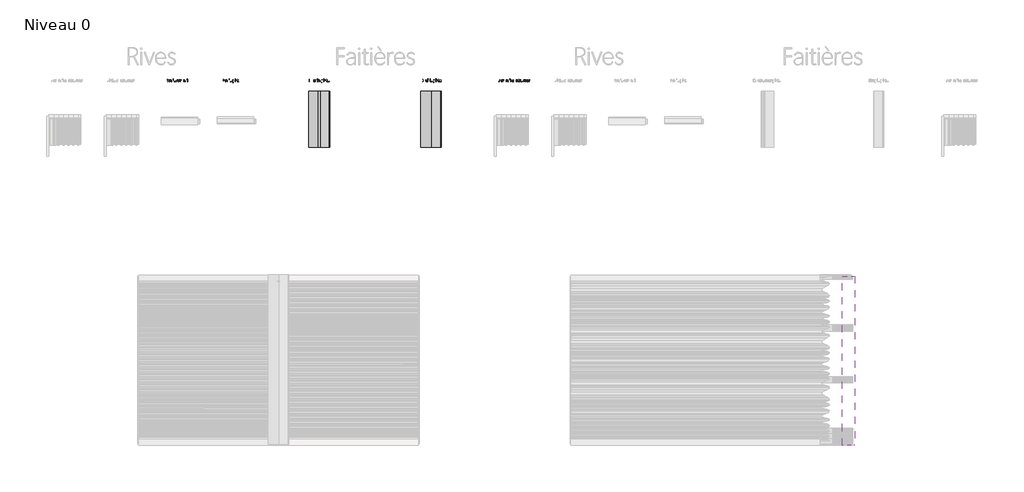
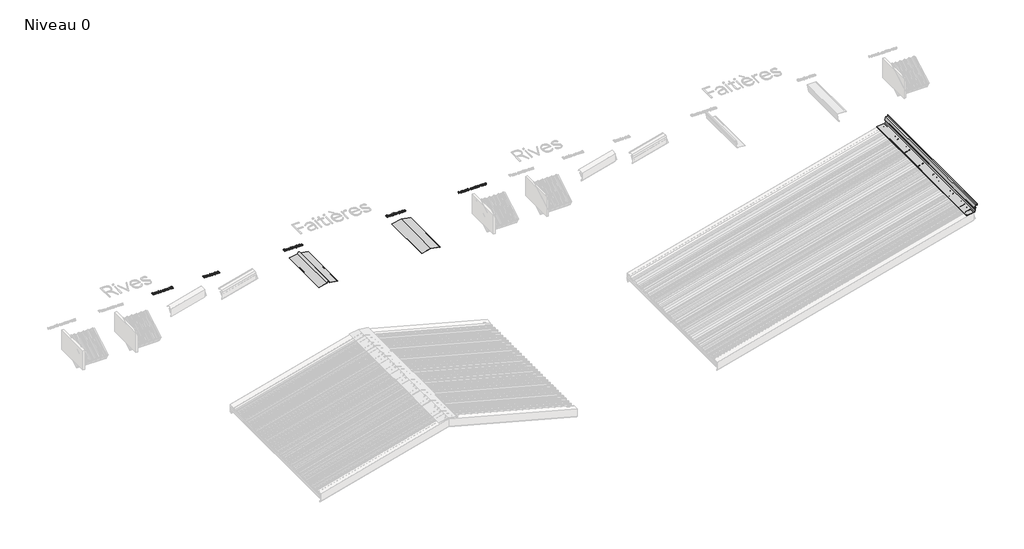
# One storey, part 15 of 26: 8 proxies.
"""IFC4 building model written with IfcOpenShell, lengths in millimetres."""

from ifc_helpers import new_model, si_unit, origin, origin_with_axes, place, context, project, spatial, polyline, outline, extrude, transform, mapped, element, save
from components import generic_models_b31ef93d, generic_models_a14e3ee3, generic_models_837f975a

model = new_model("IFC4")

# Units and contexts
model_context = context("Model", 3, world=origin())
ifc_project = project(units=[si_unit("LENGTHUNIT", "METRE", prefix="MILLI")], contexts=[model_context])

# Site, building, storey
site = spatial("IfcSite", under=ifc_project)
building = spatial("IfcBuilding", under=site)
storey = spatial("IfcBuildingStorey", under=building, Name="Niveau 0", Elevation=0.0)

# Proxies
placement = place(None, origin())
generic_models_shape = generic_models_b31ef93d(model_context)
element("IfcBuildingElementProxy", 1, Name="Faitiaire a bondin plat : Faitiaire a bondin plat", ObjectType="Faitiaire a bondin plat : Faitiaire a bondin plat", at=placement, inside=storey, context=model_context, shape_type="MappedRepresentation", body=[
    mapped(generic_models_shape, transform((4043.1822429, -8404.0846084, 0.0), x_axis=(0.0, -1.0, 0.0), y_axis=(1.0, 0.0, 0.0), z_axis=(0.0, 0.0, 1.0))),
])
generic_models_2_shape = generic_models_a14e3ee3(model_context)
element("IfcBuildingElementProxy", 2, Name="Faitaire a double plat : Faitaire a double plat", ObjectType="Faitaire a double plat : Faitaire a double plat", at=placement, inside=storey, context=model_context, shape_type="MappedRepresentation", body=[
    mapped(generic_models_2_shape, transform((6043.1822429, -8404.4337097, 0.0), x_axis=(0.0, -1.0, 0.0), y_axis=(1.0, 0.0, 0.0), z_axis=(0.0, 0.0, 1.0))),
])
generic_models_3_shape = generic_models_837f975a(model_context)
element("IfcBuildingElementProxy", 3, Name="Faitiere contre mur plate : Faitiere contre mur plate", ObjectType="Faitiere contre mur plate : Faitiere contre mur plate", at=placement, inside=storey, context=model_context, shape_type="MappedRepresentation", body=[
    mapped(generic_models_3_shape, transform((13557.8797747, -14732.4337097, 1350.0), x_axis=(0.0, 1.0, 0.0), y_axis=(-1.0, 0.0, 0.0), z_axis=(0.0, 0.0, 1.0))),
])
element("IfcBuildingElementProxy", 4, Name="0.5mm", ObjectType="0.5mm", at=placement, inside=storey, context=model_context, shape_type="SweptSolid", body=[
    extrude(outline(polyline([(5864.535279, -8239.2596825), (5864.535279, -8189.2569805), (5875.5147476, -8189.2569805), (5886.3361447, -8190.891627), (5894.5205351, -8195.7955665), (5899.6699506, -8203.5931464), (5901.3864224, -8213.9087143), (5899.6085816, -8224.3116864), (5894.2750592, -8232.3714793), (5885.9325971, -8237.5376317), (5875.1279371, -8239.2596825), (5864.535279, -8239.2596825)]), holes=[polyline([(5866.841265, -8191.3844385), (5866.841265, -8237.1322245), (5874.8898998, -8237.1322245), (5884.9302371, -8235.5849823), (5892.5864824, -8230.9432557), (5897.4346319, -8223.6087326), (5899.0506818, -8213.9831009), (5897.4774042, -8204.3983818), (5892.7575717, -8197.2758607), (5885.2296433, -8192.857294), (5875.2320784, -8191.3844385), (5866.841265, -8191.3844385)])]), origin_with_axes(), (0.0, 0.0, 1.0), 10.0),
    extrude(outline(polyline([(5924.7884605, -8240.0928129), (5912.5667349, -8234.9303798), (5907.9175697, -8221.4812746), (5912.7229469, -8207.9131508), (5924.9223565, -8202.676331), (5937.0622568, -8207.9280281), (5941.6593514, -8221.406888), (5937.0027475, -8234.8783092), (5924.7884605, -8240.0928129)]), holes=[polyline([(5924.8628472, -8238.0397415), (5935.4555053, -8233.4054536), (5939.427752, -8221.3771333), (5935.4703826, -8209.3636903), (5924.9223565, -8204.7442797), (5914.2404344, -8209.4455156), (5910.149169, -8221.5110293), (5914.1734865, -8233.4575243), (5924.8628472, -8238.0397415)])]), origin_with_axes(), (0.0, 0.0, 1.0), 10.0),
    extrude(outline(polyline([(5975.2672371, -8239.2299278), (5973.139779, -8239.2299278), (5973.139779, -8233.1153457), (5968.1856286, -8238.3000948), (5961.282548, -8240.0928129), (5952.1478681, -8236.366042), (5948.8004692, -8226.0486145), (5948.8004692, -8203.5243388), (5950.9576818, -8203.5243388), (5950.9576818, -8225.8403319), (5953.7620583, -8234.7816065), (5961.461076, -8238.0397415), (5969.8221347, -8234.5733239), (5973.139779, -8225.7659453), (5973.139779, -8203.5243388), (5975.2672371, -8203.5243388), (5975.2672371, -8239.2299278)])), origin_with_axes(), (0.0, 0.0, 1.0), 10.0),
    extrude(outline(polyline([(5987.9724758, -8233.1897323), (5987.8683345, -8239.2596825), (5985.7111219, -8239.2596825), (5985.7111219, -8186.4005333), (5987.8683345, -8186.4005333), (5987.8683345, -8211.6771149), (5993.1721022, -8205.2054769), (6001.644741, -8202.676331), (6012.415927, -8207.3850056), (6016.2840325, -8220.186947), (6011.9621685, -8234.9006251), (6000.3950454, -8240.0928129), (5992.7034664, -8238.1587601), (5987.9724758, -8233.1897323)]), holes=[polyline([(5987.8683345, -8219.7257498), (5987.8683345, -8226.0783692), (5991.3719455, -8234.5361306), (6000.4248, -8238.0397415), (6010.310785, -8233.5244722), (6014.0524332, -8220.2167016), (6010.7273502, -8208.8355451), (6001.5405997, -8204.7442797), (5991.6546147, -8208.9768798), (5987.8683345, -8219.7257498)])]), origin_with_axes(), (0.0, 0.0, 1.0), 10.0),
    extrude(outline(polyline([(6024.7492326, -8239.2596825), (6024.7492326, -8186.4005333), (6026.9064452, -8186.4005333), (6026.9064452, -8239.2596825), (6024.7492326, -8239.2596825)])), origin_with_axes(), (0.0, 0.0, 1.0), 10.0),
    extrude(outline(polyline([(6064.9626522, -8220.4770549), (6037.6925086, -8220.7374082), (6041.2705062, -8233.7476322), (6051.1267365, -8238.0694962), (6057.8810437, -8236.3957967), (6062.6566663, -8231.3746982), (6064.546087, -8232.3863566), (6059.07123, -8238.1661988), (6051.1267365, -8240.1374449), (6039.7530186, -8235.3543837), (6035.5055413, -8220.6332669), (6039.9092306, -8207.5932882), (6051.1267365, -8202.676331), (6061.332584, -8207.176723), (6064.9626522, -8220.4770549)]), holes=[polyline([(6062.7608076, -8218.7289688), (6059.5026726, -8208.2776453), (6051.0523498, -8204.7442797), (6041.9548633, -8208.3669093), (6037.7966499, -8218.7289688), (6062.7608076, -8218.7289688)])]), origin_with_axes(), (0.0, 0.0, 1.0), 10.0),
    extrude(outline(polyline([(6092.7088704, -8233.1897323), (6092.6047291, -8255.6842534), (6090.4475164, -8255.6842534), (6090.4475164, -8203.5540934), (6092.6047291, -8203.5540934), (6092.6047291, -8211.6771149), (6097.8266715, -8205.1905996), (6106.2769942, -8202.676331), (6117.0035483, -8207.5784109), (6120.9609177, -8220.320843), (6116.6316151, -8234.9303798), (6105.0868079, -8240.0928129), (6097.4249836, -8238.1587601), (6092.7088704, -8233.1897323)]), holes=[polyline([(6092.6047291, -8219.7257498), (6092.6047291, -8226.0783692), (6096.10834, -8234.5361306), (6105.1314399, -8238.0397415), (6114.9951089, -8233.5616656), (6118.7293184, -8220.3654749), (6115.3075328, -8209.0140731), (6106.1728529, -8204.7442797), (6096.197604, -8209.1554077), (6092.6047291, -8219.7257498)])]), origin_with_axes(), (0.0, 0.0, 1.0), 10.0),
    extrude(outline(polyline([(6129.4856271, -8239.2596825), (6129.4856271, -8186.4005333), (6131.6428398, -8186.4005333), (6131.6428398, -8239.2596825), (6129.4856271, -8239.2596825)])), origin_with_axes(), (0.0, 0.0, 1.0), 10.0),
    extrude(outline(polyline([(6166.6343171, -8239.2596825), (6164.4622271, -8239.2596825), (6164.4622271, -8232.3863566), (6159.2179687, -8237.9356002), (6151.6677243, -8240.0928129), (6143.6339668, -8237.3033137), (6140.792397, -8230.1547573), (6143.89432, -8222.8871822), (6153.6315317, -8219.145534), (6164.506859, -8217.6131691), (6164.506859, -8215.5154658), (6161.7694305, -8207.4817082), (6154.3605208, -8204.7442797), (6148.1343587, -8206.4179792), (6143.6488441, -8211.364691), (6141.6701594, -8210.2488914), (6147.085507, -8204.6178224), (6154.3605208, -8202.676331), (6163.3017954, -8206.0088527), (6166.6343171, -8215.5452204), (6166.6343171, -8239.2596825)]), holes=[polyline([(6164.4622271, -8225.3493801), (6164.4622271, -8219.6662405), (6153.8993236, -8221.094464), (6145.6572835, -8224.0699298), (6143.0239963, -8230.095248), (6145.4118076, -8235.9494768), (6151.8462523, -8238.1141282), (6160.7205789, -8234.4319893), (6164.4622271, -8225.3493801)])]), origin_with_axes(), (0.0, 0.0, 1.0), 10.0),
    extrude(outline(polyline([(6191.7323707, -8237.519035), (6188.7940983, -8239.3861398), (6185.5582793, -8239.9589169), (6180.5223035, -8238.0025482), (6178.8337266, -8232.1483193), (6178.8337266, -8205.5476555), (6172.287702, -8205.5476555), (6172.287702, -8203.5540934), (6178.8337266, -8203.5540934), (6178.8337266, -8193.9582164), (6180.9909393, -8193.5862831), (6180.9909393, -8203.5540934), (6190.7207123, -8203.5540934), (6190.7207123, -8205.5476555), (6180.9909393, -8205.5476555), (6180.9909393, -8231.999546), (6182.1811256, -8236.4850607), (6185.7070525, -8237.9653549), (6188.1618118, -8237.496719), (6190.4826751, -8235.9420382), (6191.7323707, -8237.519035)])), origin_with_axes(), (0.0, 0.0, 1.0), 10.0),
    extrude(outline(polyline([(6224.9236912, -8220.4770549), (6197.6535475, -8220.7374082), (6201.2315451, -8233.7476322), (6211.0877754, -8238.0694962), (6217.8420827, -8236.3957967), (6222.6177052, -8231.3746982), (6224.507126, -8232.3863566), (6219.032269, -8238.1661988), (6211.0877754, -8240.1374449), (6199.7140576, -8235.3543837), (6195.4665802, -8220.6332669), (6199.8702695, -8207.5932882), (6211.0877754, -8202.676331), (6221.293623, -8207.176723), (6224.9236912, -8220.4770549)]), holes=[polyline([(6222.7218465, -8218.7289688), (6219.4637115, -8208.2776453), (6211.0133888, -8204.7442797), (6201.9159022, -8208.3669093), (6197.7576888, -8218.7289688), (6222.7218465, -8218.7289688)])]), origin_with_axes(), (0.0, 0.0, 1.0), 10.0),
])
element("IfcBuildingElementProxy", 5, Name="0.5mm", ObjectType="0.5mm", at=placement, inside=storey, context=model_context, shape_type="SweptSolid", body=[
    extrude(outline(polyline([(3868.3438752, -8239.2596825), (3868.3438752, -8189.2569805), (3880.7961994, -8189.2569805), (3890.1986711, -8192.4481675), (3893.7543527, -8201.0398249), (3891.2624001, -8208.4487346), (3884.6196728, -8213.0011972), (3892.4897798, -8217.0627079), (3895.6437735, -8225.6915586), (3891.6492107, -8235.4957183), (3881.0639913, -8239.2596825), (3868.3438752, -8239.2596825)]), holes=[polyline([(3870.6498611, -8191.4141931), (3870.6498611, -8212.2722081), (3878.2372988, -8212.2722081), (3887.7811052, -8209.237233), (3891.3888574, -8201.1885981), (3888.495217, -8193.9954097), (3880.3647568, -8191.4141931), (3870.6498611, -8191.4141931)]), polyline([(3870.6498611, -8214.3996661), (3870.6498611, -8237.0578378), (3880.7218127, -8237.0578378), (3889.9308792, -8234.0600561), (3893.2782782, -8225.8700866), (3889.3729794, -8217.2561132), (3878.4604587, -8214.3996661), (3870.6498611, -8214.3996661)])]), origin_with_axes(), (0.0, 0.0, 1.0), 10.0),
    extrude(outline(polyline([(3919.0755663, -8240.0928129), (3906.8538407, -8234.9303798), (3902.2046755, -8221.4812746), (3907.0100526, -8207.9131508), (3919.2094622, -8202.676331), (3931.3493625, -8207.9280281), (3935.9464571, -8221.406888), (3931.2898532, -8234.8783092), (3919.0755663, -8240.0928129)]), holes=[polyline([(3919.1499529, -8238.0397415), (3929.742611, -8233.4054536), (3933.7148578, -8221.3771333), (3929.7574883, -8209.3636903), (3919.2094622, -8204.7442797), (3908.5275402, -8209.4455156), (3904.4362748, -8221.5110293), (3908.4605922, -8233.4575243), (3919.1499529, -8238.0397415)])]), origin_with_axes(), (0.0, 0.0, 1.0), 10.0),
    extrude(outline(polyline([(3969.5543428, -8239.2299278), (3967.4268848, -8239.2299278), (3967.4268848, -8233.1153457), (3962.4727343, -8238.3000948), (3955.5696538, -8240.0928129), (3946.4349739, -8236.366042), (3943.0875749, -8226.0486145), (3943.0875749, -8203.5243388), (3945.2447876, -8203.5243388), (3945.2447876, -8225.8403319), (3948.0491641, -8234.7816065), (3955.7481817, -8238.0397415), (3964.1092405, -8234.5733239), (3967.4268848, -8225.7659453), (3967.4268848, -8203.5243388), (3969.5543428, -8203.5243388), (3969.5543428, -8239.2299278)])), origin_with_axes(), (0.0, 0.0, 1.0), 10.0),
    extrude(outline(polyline([(4005.6839357, -8231.5532262), (4000.469432, -8237.8314589), (3992.5546931, -8240.0928129), (3981.5677858, -8235.1237851), (3977.4244497, -8221.9275945), (3982.1480016, -8207.8387641), (3993.8787753, -8202.676331), (4000.9008745, -8204.4021012), (4005.6318651, -8209.3116197), (4005.7360064, -8186.4005333), (4007.8932191, -8186.4005333), (4007.8932191, -8239.2596825), (4005.7360064, -8239.2596825), (4005.6839357, -8231.5532262)]), holes=[polyline([(3979.656049, -8221.7936985), (3983.2638013, -8233.7699482), (3992.6142024, -8238.0397415), (4002.1580088, -8233.9410374), (4005.7360064, -8223.6087326), (4005.7360064, -8216.1403136), (4002.3514141, -8208.0172921), (3993.8341434, -8204.7442797), (3983.6803665, -8209.3413743), (3979.656049, -8221.7936985)])]), origin_with_axes(), (0.0, 0.0, 1.0), 10.0),
    extrude(outline(polyline([(4019.9141007, -8194.8359788), (4018.2701559, -8194.211131), (4017.6081147, -8192.5746248), (4018.2701559, -8190.93068), (4019.9141007, -8190.2983935), (4021.5952389, -8190.93068), (4022.2052093, -8192.5746248), (4021.5952389, -8194.211131), (4019.9141007, -8194.8359788)])), origin_with_axes(), (0.0, 0.0, 1.0), 10.0),
    extrude(outline(polyline([(4021.0299004, -8239.2596825), (4018.8578104, -8239.2596825), (4018.8578104, -8203.5540934), (4021.0299004, -8203.5540934), (4021.0299004, -8239.2596825)])), origin_with_axes(), (0.0, 0.0, 1.0), 10.0),
    extrude(outline(polyline([(4059.7853418, -8239.2596825), (4057.6578838, -8239.2596825), (4057.6578838, -8217.018076), (4054.9353326, -8207.9652214), (4047.3627723, -8204.7442797), (4038.7934309, -8208.19582), (4035.4757866, -8217.018076), (4035.4757866, -8239.2596825), (4033.3185739, -8239.2596825), (4033.3185739, -8203.5540934), (4035.4757866, -8203.5540934), (4035.4757866, -8209.6537982), (4040.3778664, -8204.4764878), (4047.4817909, -8202.676331), (4056.5569615, -8206.4626112), (4059.7853418, -8216.8097934), (4059.7853418, -8239.2596825)])), origin_with_axes(), (0.0, 0.0, 1.0), 10.0),
    extrude(outline(polyline([(4088.9002742, -8233.1897323), (4088.7961329, -8255.6842534), (4086.6389202, -8255.6842534), (4086.6389202, -8203.5540934), (4088.7961329, -8203.5540934), (4088.7961329, -8211.6771149), (4094.0180753, -8205.1905996), (4102.4683981, -8202.676331), (4113.1949521, -8207.5784109), (4117.1523216, -8220.320843), (4112.8230189, -8234.9303798), (4101.2782118, -8240.0928129), (4093.6163874, -8238.1587601), (4088.9002742, -8233.1897323)]), holes=[polyline([(4088.7961329, -8219.7257498), (4088.7961329, -8226.0783692), (4092.2997438, -8234.5361306), (4101.3228437, -8238.0397415), (4111.1865127, -8233.5616656), (4114.9207222, -8220.3654749), (4111.4989366, -8209.0140731), (4102.3642568, -8204.7442797), (4092.3890078, -8209.1554077), (4088.7961329, -8219.7257498)])]), origin_with_axes(), (0.0, 0.0, 1.0), 10.0),
    extrude(outline(polyline([(4125.6770309, -8239.2596825), (4125.6770309, -8186.4005333), (4127.8342436, -8186.4005333), (4127.8342436, -8239.2596825), (4125.6770309, -8239.2596825)])), origin_with_axes(), (0.0, 0.0, 1.0), 10.0),
    extrude(outline(polyline([(4162.8257209, -8239.2596825), (4160.6536309, -8239.2596825), (4160.6536309, -8232.3863566), (4155.4093725, -8237.9356002), (4147.8591281, -8240.0928129), (4139.8253706, -8237.3033137), (4136.9838008, -8230.1547573), (4140.0857239, -8222.8871822), (4149.8229355, -8219.145534), (4160.6982629, -8217.6131691), (4160.6982629, -8215.5154658), (4157.9608344, -8207.4817082), (4150.5519247, -8204.7442797), (4144.3257626, -8206.4179792), (4139.8402479, -8211.364691), (4137.8615632, -8210.2488914), (4143.2769109, -8204.6178224), (4150.5519247, -8202.676331), (4159.4931992, -8206.0088527), (4162.8257209, -8215.5452204), (4162.8257209, -8239.2596825)]), holes=[polyline([(4160.6536309, -8225.3493801), (4160.6536309, -8219.6662405), (4150.0907275, -8221.094464), (4141.8486873, -8224.0699298), (4139.2154001, -8230.095248), (4141.6032114, -8235.9494768), (4148.0376561, -8238.1141282), (4156.9119827, -8234.4319893), (4160.6536309, -8225.3493801)])]), origin_with_axes(), (0.0, 0.0, 1.0), 10.0),
    extrude(outline(polyline([(4187.9237745, -8237.519035), (4184.9855021, -8239.3861398), (4181.7496831, -8239.9589169), (4176.7137073, -8238.0025482), (4175.0251305, -8232.1483193), (4175.0251305, -8205.5476555), (4168.4791058, -8205.5476555), (4168.4791058, -8203.5540934), (4175.0251305, -8203.5540934), (4175.0251305, -8193.9582164), (4177.1823432, -8193.5862831), (4177.1823432, -8203.5540934), (4186.9121162, -8203.5540934), (4186.9121162, -8205.5476555), (4177.1823432, -8205.5476555), (4177.1823432, -8231.999546), (4178.3725295, -8236.4850607), (4181.8984564, -8237.9653549), (4184.3532156, -8237.496719), (4186.6740789, -8235.9420382), (4187.9237745, -8237.519035)])), origin_with_axes(), (0.0, 0.0, 1.0), 10.0),
    extrude(outline(polyline([(4221.115095, -8220.4770549), (4193.8449514, -8220.7374082), (4197.4229489, -8233.7476322), (4207.2791793, -8238.0694962), (4214.0334865, -8236.3957967), (4218.8091091, -8231.3746982), (4220.6985298, -8232.3863566), (4215.2236728, -8238.1661988), (4207.2791793, -8240.1374449), (4195.9054614, -8235.3543837), (4191.657984, -8220.6332669), (4196.0616734, -8207.5932882), (4207.2791793, -8202.676331), (4217.4850268, -8207.176723), (4221.115095, -8220.4770549)]), holes=[polyline([(4218.9132504, -8218.7289688), (4215.6551154, -8208.2776453), (4207.2047926, -8204.7442797), (4198.1073061, -8208.3669093), (4193.9490927, -8218.7289688), (4218.9132504, -8218.7289688)])]), origin_with_axes(), (0.0, 0.0, 1.0), 10.0),
])
element("IfcBuildingElementProxy", 6, Name="0.5mm", ObjectType="0.5mm", at=placement, inside=storey, context=model_context, shape_type="SweptSolid", body=[
    extrude(outline(polyline([(2301.2173677, -8239.2596825), (2301.2173677, -8189.2569805), (2313.6696919, -8189.2569805), (2323.0721637, -8192.4481675), (2326.6278453, -8201.0398249), (2324.1358927, -8208.4487346), (2317.4931654, -8213.0011972), (2325.3632723, -8217.0627079), (2328.517266, -8225.6915586), (2324.5227033, -8235.4957183), (2313.9374838, -8239.2596825), (2301.2173677, -8239.2596825)]), holes=[polyline([(2303.5233537, -8191.4141931), (2303.5233537, -8212.2722081), (2311.1107914, -8212.2722081), (2320.6545978, -8209.237233), (2324.26235, -8201.1885981), (2321.3687096, -8193.9954097), (2313.2382494, -8191.4141931), (2303.5233537, -8191.4141931)]), polyline([(2303.5233537, -8214.3996661), (2303.5233537, -8237.0578378), (2313.5953053, -8237.0578378), (2322.8043718, -8234.0600561), (2326.1517708, -8225.8700866), (2322.246472, -8217.2561132), (2311.3339513, -8214.3996661), (2303.5233537, -8214.3996661)])]), origin_with_axes(), (0.0, 0.0, 1.0), 10.0),
    extrude(outline(polyline([(2361.4705493, -8239.2596825), (2359.2984593, -8239.2596825), (2359.2984593, -8232.3863566), (2354.0542009, -8237.9356002), (2346.5039565, -8240.0928129), (2338.470199, -8237.3033137), (2335.6286292, -8230.1547573), (2338.7305522, -8222.8871822), (2348.4677639, -8219.145534), (2359.3430913, -8217.6131691), (2359.3430913, -8215.5154658), (2356.6056628, -8207.4817082), (2349.196753, -8204.7442797), (2342.9705909, -8206.4179792), (2338.4850763, -8211.364691), (2336.5063916, -8210.2488914), (2341.9217393, -8204.6178224), (2349.196753, -8202.676331), (2358.1380276, -8206.0088527), (2361.4705493, -8215.5452204), (2361.4705493, -8239.2596825)]), holes=[polyline([(2359.2984593, -8225.3493801), (2359.2984593, -8219.6662405), (2348.7355558, -8221.094464), (2340.4935157, -8224.0699298), (2337.8602285, -8230.095248), (2340.2480398, -8235.9494768), (2346.6824845, -8238.1141282), (2355.5568111, -8234.4319893), (2359.2984593, -8225.3493801)])]), origin_with_axes(), (0.0, 0.0, 1.0), 10.0),
    extrude(outline(polyline([(2398.3960793, -8239.2596825), (2396.2686213, -8239.2596825), (2396.2686213, -8217.018076), (2393.5460701, -8207.9652214), (2385.9735098, -8204.7442797), (2377.4041684, -8208.19582), (2374.0865241, -8217.018076), (2374.0865241, -8239.2596825), (2371.9293114, -8239.2596825), (2371.9293114, -8203.5540934), (2374.0865241, -8203.5540934), (2374.0865241, -8209.6537982), (2378.9886039, -8204.4764878), (2386.0925284, -8202.676331), (2395.1676989, -8206.4626112), (2398.3960793, -8216.8097934), (2398.3960793, -8239.2596825)])), origin_with_axes(), (0.0, 0.0, 1.0), 10.0),
    extrude(outline(polyline([(2433.7966831, -8231.5532262), (2428.5821794, -8237.8314589), (2420.6674405, -8240.0928129), (2409.6805332, -8235.1237851), (2405.5371971, -8221.9275945), (2410.260749, -8207.8387641), (2421.9915227, -8202.676331), (2429.0136219, -8204.4021012), (2433.7446125, -8209.3116197), (2433.8487538, -8186.4005333), (2436.0059664, -8186.4005333), (2436.0059664, -8239.2596825), (2433.8487538, -8239.2596825), (2433.7966831, -8231.5532262)]), holes=[polyline([(2407.7687964, -8221.7936985), (2411.3765486, -8233.7699482), (2420.7269498, -8238.0397415), (2430.2707562, -8233.9410374), (2433.8487538, -8223.6087326), (2433.8487538, -8216.1403136), (2430.4641615, -8208.0172921), (2421.9468907, -8204.7442797), (2411.7931138, -8209.3413743), (2407.7687964, -8221.7936985)])]), origin_with_axes(), (0.0, 0.0, 1.0), 10.0),
    extrude(outline(polyline([(2474.0324188, -8220.4770549), (2446.7622751, -8220.7374082), (2450.3402727, -8233.7476322), (2460.196503, -8238.0694962), (2466.9508103, -8236.3957967), (2471.7264328, -8231.3746982), (2473.6158536, -8232.3863566), (2468.1409966, -8238.1661988), (2460.196503, -8240.1374449), (2448.8227852, -8235.3543837), (2444.5753078, -8220.6332669), (2448.9789971, -8207.5932882), (2460.196503, -8202.676331), (2470.4023505, -8207.176723), (2474.0324188, -8220.4770549)]), holes=[polyline([(2471.8305741, -8218.7289688), (2468.5724391, -8208.2776453), (2460.1221164, -8204.7442797), (2451.0246298, -8208.3669093), (2446.8664164, -8218.7289688), (2471.8305741, -8218.7289688)])]), origin_with_axes(), (0.0, 0.0, 1.0), 10.0),
    extrude(outline(polyline([(2501.7786369, -8233.1897323), (2501.6744956, -8255.6842534), (2499.517283, -8255.6842534), (2499.517283, -8203.5540934), (2501.6744956, -8203.5540934), (2501.6744956, -8211.6771149), (2506.896438, -8205.1905996), (2515.3467608, -8202.676331), (2526.0733148, -8207.5784109), (2530.0306843, -8220.320843), (2525.7013816, -8234.9303798), (2514.1565745, -8240.0928129), (2506.4947501, -8238.1587601), (2501.7786369, -8233.1897323)]), holes=[polyline([(2501.6744956, -8219.7257498), (2501.6744956, -8226.0783692), (2505.1781066, -8234.5361306), (2514.2012065, -8238.0397415), (2524.0648754, -8233.5616656), (2527.799085, -8220.3654749), (2524.3772993, -8209.0140731), (2515.2426195, -8204.7442797), (2505.2673705, -8209.1554077), (2501.6744956, -8219.7257498)])]), origin_with_axes(), (0.0, 0.0, 1.0), 10.0),
    extrude(outline(polyline([(2538.5553937, -8239.2596825), (2538.5553937, -8186.4005333), (2540.7126063, -8186.4005333), (2540.7126063, -8239.2596825), (2538.5553937, -8239.2596825)])), origin_with_axes(), (0.0, 0.0, 1.0), 10.0),
    extrude(outline(polyline([(2575.7040836, -8239.2596825), (2573.5319936, -8239.2596825), (2573.5319936, -8232.3863566), (2568.2877352, -8237.9356002), (2560.7374909, -8240.0928129), (2552.7037333, -8237.3033137), (2549.8621635, -8230.1547573), (2552.9640866, -8222.8871822), (2562.7012983, -8219.145534), (2573.5766256, -8217.6131691), (2573.5766256, -8215.5154658), (2570.8391971, -8207.4817082), (2563.4302874, -8204.7442797), (2557.2041253, -8206.4179792), (2552.7186106, -8211.364691), (2550.7399259, -8210.2488914), (2556.1552736, -8204.6178224), (2563.4302874, -8202.676331), (2572.371562, -8206.0088527), (2575.7040836, -8215.5452204), (2575.7040836, -8239.2596825)]), holes=[polyline([(2573.5319936, -8225.3493801), (2573.5319936, -8219.6662405), (2562.9690902, -8221.094464), (2554.72705, -8224.0699298), (2552.0937628, -8230.095248), (2554.4815741, -8235.9494768), (2560.9160188, -8238.1141282), (2569.7903454, -8234.4319893), (2573.5319936, -8225.3493801)])]), origin_with_axes(), (0.0, 0.0, 1.0), 10.0),
    extrude(outline(polyline([(2600.8021372, -8237.519035), (2597.8638648, -8239.3861398), (2594.6280458, -8239.9589169), (2589.59207, -8238.0025482), (2587.9034932, -8232.1483193), (2587.9034932, -8205.5476555), (2581.3574685, -8205.5476555), (2581.3574685, -8203.5540934), (2587.9034932, -8203.5540934), (2587.9034932, -8193.9582164), (2590.0607059, -8193.5862831), (2590.0607059, -8203.5540934), (2599.7904789, -8203.5540934), (2599.7904789, -8205.5476555), (2590.0607059, -8205.5476555), (2590.0607059, -8231.999546), (2591.2508922, -8236.4850607), (2594.7768191, -8237.9653549), (2597.2315783, -8237.496719), (2599.5524416, -8235.9420382), (2600.8021372, -8237.519035)])), origin_with_axes(), (0.0, 0.0, 1.0), 10.0),
])
element("IfcBuildingElementProxy", 7, Name="0.5mm", ObjectType="0.5mm", at=placement, inside=storey, context=model_context, shape_type="SweptSolid", body=[
    extrude(outline(polyline([(1301.2173677, -8239.2596825), (1301.2173677, -8189.2569805), (1313.6696919, -8189.2569805), (1323.0721637, -8192.4481675), (1326.6278453, -8201.0398249), (1324.1358927, -8208.4487346), (1317.4931654, -8213.0011972), (1325.3632723, -8217.0627079), (1328.517266, -8225.6915586), (1324.5227033, -8235.4957183), (1313.9374838, -8239.2596825), (1301.2173677, -8239.2596825)]), holes=[polyline([(1303.5233537, -8191.4141931), (1303.5233537, -8212.2722081), (1311.1107914, -8212.2722081), (1320.6545978, -8209.237233), (1324.26235, -8201.1885981), (1321.3687096, -8193.9954097), (1313.2382494, -8191.4141931), (1303.5233537, -8191.4141931)]), polyline([(1303.5233537, -8214.3996661), (1303.5233537, -8237.0578378), (1313.5953053, -8237.0578378), (1322.8043718, -8234.0600561), (1326.1517708, -8225.8700866), (1322.246472, -8217.2561132), (1311.3339513, -8214.3996661), (1303.5233537, -8214.3996661)])]), origin_with_axes(), (0.0, 0.0, 1.0), 10.0),
    extrude(outline(polyline([(1361.4705493, -8239.2596825), (1359.2984593, -8239.2596825), (1359.2984593, -8232.3863566), (1354.0542009, -8237.9356002), (1346.5039565, -8240.0928129), (1338.470199, -8237.3033137), (1335.6286292, -8230.1547573), (1338.7305522, -8222.8871822), (1348.4677639, -8219.145534), (1359.3430913, -8217.6131691), (1359.3430913, -8215.5154658), (1356.6056628, -8207.4817082), (1349.196753, -8204.7442797), (1342.9705909, -8206.4179792), (1338.4850763, -8211.364691), (1336.5063916, -8210.2488914), (1341.9217393, -8204.6178224), (1349.196753, -8202.676331), (1358.1380276, -8206.0088527), (1361.4705493, -8215.5452204), (1361.4705493, -8239.2596825)]), holes=[polyline([(1359.2984593, -8225.3493801), (1359.2984593, -8219.6662405), (1348.7355558, -8221.094464), (1340.4935157, -8224.0699298), (1337.8602285, -8230.095248), (1340.2480398, -8235.9494768), (1346.6824845, -8238.1141282), (1355.5568111, -8234.4319893), (1359.2984593, -8225.3493801)])]), origin_with_axes(), (0.0, 0.0, 1.0), 10.0),
    extrude(outline(polyline([(1398.3960793, -8239.2596825), (1396.2686213, -8239.2596825), (1396.2686213, -8217.018076), (1393.5460701, -8207.9652214), (1385.9735098, -8204.7442797), (1377.4041684, -8208.19582), (1374.0865241, -8217.018076), (1374.0865241, -8239.2596825), (1371.9293114, -8239.2596825), (1371.9293114, -8203.5540934), (1374.0865241, -8203.5540934), (1374.0865241, -8209.6537982), (1378.9886039, -8204.4764878), (1386.0925284, -8202.676331), (1395.1676989, -8206.4626112), (1398.3960793, -8216.8097934), (1398.3960793, -8239.2596825)])), origin_with_axes(), (0.0, 0.0, 1.0), 10.0),
    extrude(outline(polyline([(1433.7966831, -8231.5532262), (1428.5821794, -8237.8314589), (1420.6674405, -8240.0928129), (1409.6805332, -8235.1237851), (1405.5371971, -8221.9275945), (1410.260749, -8207.8387641), (1421.9915227, -8202.676331), (1429.0136219, -8204.4021012), (1433.7446125, -8209.3116197), (1433.8487538, -8186.4005333), (1436.0059664, -8186.4005333), (1436.0059664, -8239.2596825), (1433.8487538, -8239.2596825), (1433.7966831, -8231.5532262)]), holes=[polyline([(1407.7687964, -8221.7936985), (1411.3765486, -8233.7699482), (1420.7269498, -8238.0397415), (1430.2707562, -8233.9410374), (1433.8487538, -8223.6087326), (1433.8487538, -8216.1403136), (1430.4641615, -8208.0172921), (1421.9468907, -8204.7442797), (1411.7931138, -8209.3413743), (1407.7687964, -8221.7936985)])]), origin_with_axes(), (0.0, 0.0, 1.0), 10.0),
    extrude(outline(polyline([(1474.0324188, -8220.4770549), (1446.7622751, -8220.7374082), (1450.3402727, -8233.7476322), (1460.196503, -8238.0694962), (1466.9508103, -8236.3957967), (1471.7264328, -8231.3746982), (1473.6158536, -8232.3863566), (1468.1409966, -8238.1661988), (1460.196503, -8240.1374449), (1448.8227852, -8235.3543837), (1444.5753078, -8220.6332669), (1448.9789971, -8207.5932882), (1460.196503, -8202.676331), (1470.4023505, -8207.176723), (1474.0324188, -8220.4770549)]), holes=[polyline([(1471.8305741, -8218.7289688), (1468.5724391, -8208.2776453), (1460.1221164, -8204.7442797), (1451.0246298, -8208.3669093), (1446.8664164, -8218.7289688), (1471.8305741, -8218.7289688)])]), origin_with_axes(), (0.0, 0.0, 1.0), 10.0),
    extrude(outline(polyline([(1523.3358863, -8239.2596825), (1521.1637963, -8239.2596825), (1521.1637963, -8232.3863566), (1515.9195379, -8237.9356002), (1508.3692936, -8240.0928129), (1500.335536, -8237.3033137), (1497.4939662, -8230.1547573), (1500.5958893, -8222.8871822), (1510.333101, -8219.145534), (1521.2084283, -8217.6131691), (1521.2084283, -8215.5154658), (1518.4709998, -8207.4817082), (1511.0620901, -8204.7442797), (1504.835928, -8206.4179792), (1500.3504134, -8211.364691), (1498.3717286, -8210.2488914), (1503.7870763, -8204.6178224), (1511.0620901, -8202.676331), (1520.0033647, -8206.0088527), (1523.3358863, -8215.5452204), (1523.3358863, -8239.2596825)]), holes=[polyline([(1521.1637963, -8225.3493801), (1521.1637963, -8219.6662405), (1510.6008929, -8221.094464), (1502.3588527, -8224.0699298), (1499.7255656, -8230.095248), (1502.1133768, -8235.9494768), (1508.5478215, -8238.1141282), (1517.4221481, -8234.4319893), (1521.1637963, -8225.3493801)])]), origin_with_axes(), (0.0, 0.0, 1.0), 10.0),
    extrude(outline(polyline([(1549.5943716, -8205.5476555), (1547.8686015, -8204.960001), (1546.1428313, -8204.803789), (1538.8008696, -8209.0066344), (1535.9221065, -8221.1242187), (1535.9221065, -8239.2596825), (1533.7946484, -8239.2596825), (1533.7946484, -8203.5540934), (1535.9221065, -8203.5540934), (1535.9221065, -8211.4390777), (1539.9315466, -8205.071581), (1546.2469726, -8202.8251043), (1548.300044, -8202.9961936), (1550.427502, -8203.6582347), (1549.5943716, -8205.5476555)])), origin_with_axes(), (0.0, 0.0, 1.0), 10.0),
    extrude(outline(polyline([(1572.4459486, -8205.5476555), (1570.7201785, -8204.960001), (1568.9944083, -8204.803789), (1561.6524466, -8209.0066344), (1558.7736835, -8221.1242187), (1558.7736835, -8239.2596825), (1556.6462254, -8239.2596825), (1556.6462254, -8203.5540934), (1558.7736835, -8203.5540934), (1558.7736835, -8211.4390777), (1562.7831236, -8205.071581), (1569.0985496, -8202.8251043), (1571.151621, -8202.9961936), (1573.279079, -8203.6582347), (1572.4459486, -8205.5476555)])), origin_with_axes(), (0.0, 0.0, 1.0), 10.0),
    extrude(outline(polyline([(1593.7949154, -8240.0928129), (1581.5731898, -8234.9303798), (1576.9240246, -8221.4812746), (1581.7294018, -8207.9131508), (1593.9288113, -8202.676331), (1606.0687116, -8207.9280281), (1610.6658062, -8221.406888), (1606.0092023, -8234.8783092), (1593.7949154, -8240.0928129)]), holes=[polyline([(1593.869302, -8238.0397415), (1604.4619601, -8233.4054536), (1608.4342069, -8221.3771333), (1604.4768374, -8209.3636903), (1593.9288113, -8204.7442797), (1583.2468893, -8209.4455156), (1579.1556239, -8221.5110293), (1583.1799413, -8233.4575243), (1593.869302, -8238.0397415)])]), origin_with_axes(), (0.0, 0.0, 1.0), 10.0),
    extrude(outline(polyline([(1645.002681, -8239.2596825), (1642.875223, -8239.2596825), (1642.875223, -8217.018076), (1640.1526718, -8207.9652214), (1632.5801115, -8204.7442797), (1624.0107701, -8208.19582), (1620.6931258, -8217.018076), (1620.6931258, -8239.2596825), (1618.5359131, -8239.2596825), (1618.5359131, -8203.5540934), (1620.6931258, -8203.5540934), (1620.6931258, -8209.6537982), (1625.5952056, -8204.4764878), (1632.6991301, -8202.676331), (1641.7743007, -8206.4626112), (1645.002681, -8216.8097934), (1645.002681, -8239.2596825)])), origin_with_axes(), (0.0, 0.0, 1.0), 10.0),
    extrude(outline(polyline([(1680.4032848, -8231.5532262), (1675.1887811, -8237.8314589), (1667.2740422, -8240.0928129), (1656.2871349, -8235.1237851), (1652.1437988, -8221.9275945), (1656.8673507, -8207.8387641), (1668.5981245, -8202.676331), (1675.6202236, -8204.4021012), (1680.3512142, -8209.3116197), (1680.4553555, -8186.4005333), (1682.6125682, -8186.4005333), (1682.6125682, -8239.2596825), (1680.4553555, -8239.2596825), (1680.4032848, -8231.5532262)]), holes=[polyline([(1654.3753981, -8221.7936985), (1657.9831504, -8233.7699482), (1667.3335515, -8238.0397415), (1676.8773579, -8233.9410374), (1680.4553555, -8223.6087326), (1680.4553555, -8216.1403136), (1677.0707632, -8208.0172921), (1668.5534925, -8204.7442797), (1658.3997156, -8209.3413743), (1654.3753981, -8221.7936985)])]), origin_with_axes(), (0.0, 0.0, 1.0), 10.0),
    extrude(outline(polyline([(1694.6334498, -8194.8359788), (1692.989505, -8194.211131), (1692.3274638, -8192.5746248), (1692.989505, -8190.93068), (1694.6334498, -8190.2983935), (1696.314588, -8190.93068), (1696.9245584, -8192.5746248), (1696.314588, -8194.211131), (1694.6334498, -8194.8359788)])), origin_with_axes(), (0.0, 0.0, 1.0), 10.0),
    extrude(outline(polyline([(1695.7492495, -8239.2596825), (1693.5771595, -8239.2596825), (1693.5771595, -8203.5540934), (1695.7492495, -8203.5540934), (1695.7492495, -8239.2596825)])), origin_with_axes(), (0.0, 0.0, 1.0), 10.0),
])
element("IfcBuildingElementProxy", 8, Name="0.5mm", ObjectType="0.5mm", at=placement, inside=storey, context=model_context, shape_type="SweptSolid", body=[
    extrude(outline(polyline([(7256.8583104, -8239.2596825), (7275.5442354, -8189.2569805), (7277.5377974, -8189.2569805), (7295.9410531, -8239.2596825), (7293.4714165, -8239.2596825), (7287.5353623, -8223.1177808), (7265.3235105, -8223.1177808), (7259.327947, -8239.2596825), (7256.8583104, -8239.2596825)]), holes=[polyline([(7266.1268862, -8220.9159361), (7286.7022319, -8220.9159361), (7277.879976, -8196.8890501), (7277.1509869, -8194.7987854), (7276.5261391, -8192.8870487), (7275.7153246, -8194.8211014), (7274.9937742, -8196.8295408), (7266.1268862, -8220.9159361)])]), origin_with_axes(), (0.0, 0.0, 1.0), 10.0),
    extrude(outline(polyline([(7319.1645633, -8205.5476555), (7317.4387932, -8204.960001), (7315.713023, -8204.803789), (7308.3710613, -8209.0066344), (7305.4922982, -8221.1242187), (7305.4922982, -8239.2596825), (7303.3648402, -8239.2596825), (7303.3648402, -8203.5540934), (7305.4922982, -8203.5540934), (7305.4922982, -8211.4390777), (7309.5017383, -8205.071581), (7315.8171643, -8202.8251043), (7317.8702357, -8202.9961936), (7319.9976937, -8203.6582347), (7319.1645633, -8205.5476555)])), origin_with_axes(), (0.0, 0.0, 1.0), 10.0),
    extrude(outline(polyline([(7342.0161403, -8205.5476555), (7340.2903702, -8204.960001), (7338.5646, -8204.803789), (7331.2226383, -8209.0066344), (7328.3438752, -8221.1242187), (7328.3438752, -8239.2596825), (7326.2164172, -8239.2596825), (7326.2164172, -8203.5540934), (7328.3438752, -8203.5540934), (7328.3438752, -8211.4390777), (7332.3533153, -8205.071581), (7338.6687413, -8202.8251043), (7340.7218127, -8202.9961936), (7342.8492707, -8203.6582347), (7342.0161403, -8205.5476555)])), origin_with_axes(), (0.0, 0.0, 1.0), 10.0),
    extrude(outline(polyline([(7363.3651071, -8240.0928129), (7351.1433815, -8234.9303798), (7346.4942163, -8221.4812746), (7351.2995935, -8207.9131508), (7363.4990031, -8202.676331), (7375.6389033, -8207.9280281), (7380.2359979, -8221.406888), (7375.579394, -8234.8783092), (7363.3651071, -8240.0928129)]), holes=[polyline([(7363.4394937, -8238.0397415), (7374.0321518, -8233.4054536), (7378.0043986, -8221.3771333), (7374.0470292, -8209.3636903), (7363.4990031, -8204.7442797), (7352.817081, -8209.4455156), (7348.7258156, -8221.5110293), (7352.750133, -8233.4575243), (7363.4394937, -8238.0397415)])]), origin_with_axes(), (0.0, 0.0, 1.0), 10.0),
    extrude(outline(polyline([(7414.5728727, -8239.2596825), (7412.4454147, -8239.2596825), (7412.4454147, -8217.018076), (7409.7228636, -8207.9652214), (7402.1503032, -8204.7442797), (7393.5809618, -8208.19582), (7390.2633175, -8217.018076), (7390.2633175, -8239.2596825), (7388.1061048, -8239.2596825), (7388.1061048, -8203.5540934), (7390.2633175, -8203.5540934), (7390.2633175, -8209.6537982), (7395.1653973, -8204.4764878), (7402.2693218, -8202.676331), (7411.3444924, -8206.4626112), (7414.5728727, -8216.8097934), (7414.5728727, -8239.2596825)])), origin_with_axes(), (0.0, 0.0, 1.0), 10.0),
    extrude(outline(polyline([(7449.9734765, -8231.5532262), (7444.7589728, -8237.8314589), (7436.8442339, -8240.0928129), (7425.8573266, -8235.1237851), (7421.7139905, -8221.9275945), (7426.4375424, -8207.8387641), (7438.1683162, -8202.676331), (7445.1904153, -8204.4021012), (7449.9214059, -8209.3116197), (7450.0255472, -8186.4005333), (7452.1827599, -8186.4005333), (7452.1827599, -8239.2596825), (7450.0255472, -8239.2596825), (7449.9734765, -8231.5532262)]), holes=[polyline([(7423.9455899, -8221.7936985), (7427.5533421, -8233.7699482), (7436.9037432, -8238.0397415), (7446.4475496, -8233.9410374), (7450.0255472, -8223.6087326), (7450.0255472, -8216.1403136), (7446.6409549, -8208.0172921), (7438.1236842, -8204.7442797), (7427.9699073, -8209.3413743), (7423.9455899, -8221.7936985)])]), origin_with_axes(), (0.0, 0.0, 1.0), 10.0),
    extrude(outline(polyline([(7464.2036415, -8194.8359788), (7462.5596967, -8194.211131), (7461.8976556, -8192.5746248), (7462.5596967, -8190.93068), (7464.2036415, -8190.2983935), (7465.8847797, -8190.93068), (7466.4947501, -8192.5746248), (7465.8847797, -8194.211131), (7464.2036415, -8194.8359788)])), origin_with_axes(), (0.0, 0.0, 1.0), 10.0),
    extrude(outline(polyline([(7465.3194412, -8239.2596825), (7463.1473512, -8239.2596825), (7463.1473512, -8203.5540934), (7465.3194412, -8203.5540934), (7465.3194412, -8239.2596825)])), origin_with_axes(), (0.0, 0.0, 1.0), 10.0),
    extrude(outline(polyline([(7521.1391787, -8233.4426469), (7515.8428497, -8238.3521654), (7508.2405347, -8240.0928129), (7496.7031662, -8235.0196438), (7492.1730196, -8221.4812746), (7496.8742555, -8207.7495001), (7508.7612412, -8202.676331), (7515.790779, -8204.3202759), (7521.0647921, -8209.2074784), (7519.3687766, -8210.3827873), (7514.6377861, -8206.02373), (7508.7314865, -8204.6996477), (7498.4438137, -8209.1851624), (7494.4046189, -8221.5110293), (7498.3396724, -8233.5393496), (7508.3149213, -8238.0397415), (7514.72705, -8236.5743246), (7519.4282859, -8232.178074), (7521.1391787, -8233.4426469)])), origin_with_axes(), (0.0, 0.0, 1.0), 10.0),
    extrude(outline(polyline([(7543.3212759, -8240.0928129), (7531.0995503, -8234.9303798), (7526.4503851, -8221.4812746), (7531.2557623, -8207.9131508), (7543.4551719, -8202.676331), (7555.5950722, -8207.9280281), (7560.1921668, -8221.406888), (7555.5355629, -8234.8783092), (7543.3212759, -8240.0928129)]), holes=[polyline([(7543.3956626, -8238.0397415), (7553.9883207, -8233.4054536), (7557.9605674, -8221.3771333), (7554.003198, -8209.3636903), (7543.4551719, -8204.7442797), (7532.7732498, -8209.4455156), (7528.6819844, -8221.5110293), (7532.7063018, -8233.4575243), (7543.3956626, -8238.0397415)])]), origin_with_axes(), (0.0, 0.0, 1.0), 10.0),
    extrude(outline(polyline([(7594.5290416, -8239.2596825), (7592.4015835, -8239.2596825), (7592.4015835, -8217.018076), (7589.6790324, -8207.9652214), (7582.106472, -8204.7442797), (7573.5371307, -8208.19582), (7570.2194863, -8217.018076), (7570.2194863, -8239.2596825), (7568.0622737, -8239.2596825), (7568.0622737, -8203.5540934), (7570.2194863, -8203.5540934), (7570.2194863, -8209.6537982), (7575.1215662, -8204.4764878), (7582.2254907, -8202.676331), (7591.3006612, -8206.4626112), (7594.5290416, -8216.8097934), (7594.5290416, -8239.2596825)])), origin_with_axes(), (0.0, 0.0, 1.0), 10.0),
    extrude(outline(polyline([(7618.8832288, -8237.519035), (7615.9449563, -8239.3861398), (7612.7091373, -8239.9589169), (7607.6731615, -8238.0025482), (7605.9845847, -8232.1483193), (7605.9845847, -8205.5476555), (7599.4385601, -8205.5476555), (7599.4385601, -8203.5540934), (7605.9845847, -8203.5540934), (7605.9845847, -8193.9582164), (7608.1417974, -8193.5862831), (7608.1417974, -8203.5540934), (7617.8715704, -8203.5540934), (7617.8715704, -8205.5476555), (7608.1417974, -8205.5476555), (7608.1417974, -8231.999546), (7609.3319837, -8236.4850607), (7612.8579106, -8237.9653549), (7615.3126699, -8237.496719), (7617.6335331, -8235.9420382), (7618.8832288, -8237.519035)])), origin_with_axes(), (0.0, 0.0, 1.0), 10.0),
    extrude(outline(polyline([(7640.9909393, -8205.5476555), (7639.2651692, -8204.960001), (7637.539399, -8204.803789), (7630.1974373, -8209.0066344), (7627.3186742, -8221.1242187), (7627.3186742, -8239.2596825), (7625.1912162, -8239.2596825), (7625.1912162, -8203.5540934), (7627.3186742, -8203.5540934), (7627.3186742, -8211.4390777), (7631.3281143, -8205.071581), (7637.6435403, -8202.8251043), (7639.6966117, -8202.9961936), (7641.8240697, -8203.6582347), (7640.9909393, -8205.5476555)])), origin_with_axes(), (0.0, 0.0, 1.0), 10.0),
    extrude(outline(polyline([(7674.9261262, -8220.4770549), (7647.6559826, -8220.7374082), (7651.2339802, -8233.7476322), (7661.0902105, -8238.0694962), (7667.8445178, -8236.3957967), (7672.6201403, -8231.3746982), (7674.509561, -8232.3863566), (7669.0347041, -8238.1661988), (7661.0902105, -8240.1374449), (7649.7164926, -8235.3543837), (7645.4690153, -8220.6332669), (7649.8727046, -8207.5932882), (7661.0902105, -8202.676331), (7671.296058, -8207.176723), (7674.9261262, -8220.4770549)]), holes=[polyline([(7672.7242816, -8218.7289688), (7669.4661466, -8208.2776453), (7661.0158238, -8204.7442797), (7651.9183373, -8208.3669093), (7647.7601239, -8218.7289688), (7672.7242816, -8218.7289688)])]), origin_with_axes(), (0.0, 0.0, 1.0), 10.0),
    extrude(outline(polyline([(7747.0960481, -8239.2596825), (7744.9685901, -8239.2596825), (7744.9685901, -8217.018076), (7742.4915149, -8207.7420615), (7735.6256276, -8204.7442797), (7727.9414873, -8208.262768), (7724.8544416, -8217.2263586), (7724.8544416, -8239.2596825), (7722.6972289, -8239.2596825), (7722.6972289, -8216.839548), (7720.413559, -8207.9131508), (7713.6220584, -8204.7442797), (7705.6552488, -8208.1214334), (7702.5682031, -8216.973444), (7702.5682031, -8239.2596825), (7700.4109904, -8239.2596825), (7700.4109904, -8203.5540934), (7702.5682031, -8203.5540934), (7702.5682031, -8209.371129), (7707.2991937, -8204.3723465), (7713.8005863, -8202.676331), (7720.6515962, -8205.0120716), (7724.1254525, -8211.2307951), (7728.7225471, -8204.9302463), (7735.6553823, -8202.676331), (7744.150337, -8206.2915219), (7747.0960481, -8216.839548), (7747.0960481, -8239.2596825)])), origin_with_axes(), (0.0, 0.0, 1.0), 10.0),
    extrude(outline(polyline([(7783.2777117, -8239.2299278), (7781.1502537, -8239.2299278), (7781.1502537, -8233.1153457), (7776.1961032, -8238.3000948), (7769.2930227, -8240.0928129), (7760.1583428, -8236.366042), (7756.8109438, -8226.0486145), (7756.8109438, -8203.5243388), (7758.9681565, -8203.5243388), (7758.9681565, -8225.8403319), (7761.772533, -8234.7816065), (7769.4715506, -8238.0397415), (7777.8326094, -8234.5733239), (7781.1502537, -8225.7659453), (7781.1502537, -8203.5243388), (7783.2777117, -8203.5243388), (7783.2777117, -8239.2299278)])), origin_with_axes(), (0.0, 0.0, 1.0), 10.0),
    extrude(outline(polyline([(7809.5213197, -8205.5476555), (7807.7955495, -8204.960001), (7806.0697794, -8204.803789), (7798.7278176, -8209.0066344), (7795.8490545, -8221.1242187), (7795.8490545, -8239.2596825), (7793.7215965, -8239.2596825), (7793.7215965, -8203.5540934), (7795.8490545, -8203.5540934), (7795.8490545, -8211.4390777), (7799.8584946, -8205.071581), (7806.1739207, -8202.8251043), (7808.2269921, -8202.9961936), (7810.3544501, -8203.6582347), (7809.5213197, -8205.5476555)])), origin_with_axes(), (0.0, 0.0, 1.0), 10.0),
])

save(model, "model.ifc")
